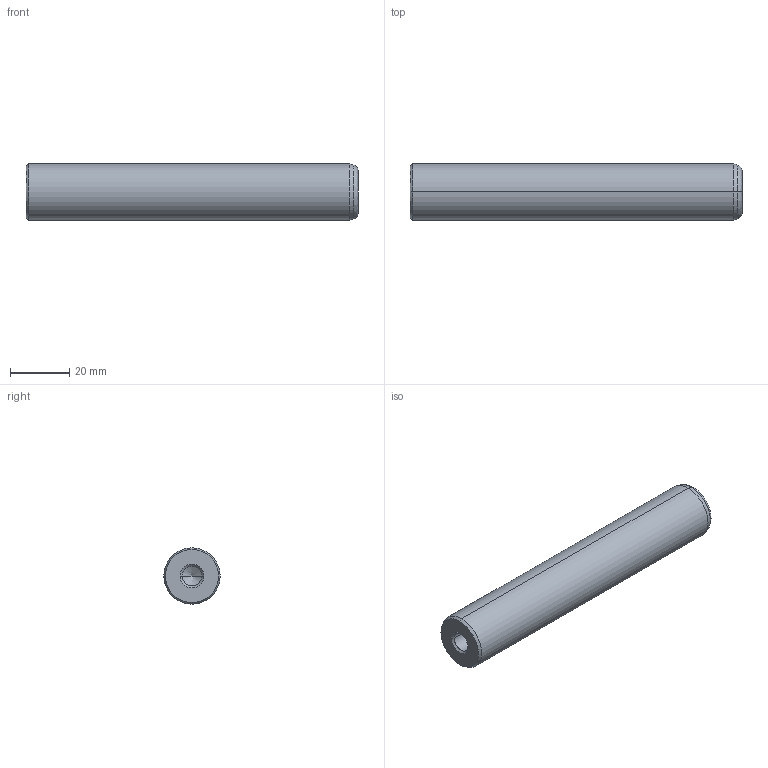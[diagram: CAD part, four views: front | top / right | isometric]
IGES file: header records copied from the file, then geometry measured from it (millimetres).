
Start section: START RECORD GO HERE.
Global section: file name: 720-19x112.igs; native system: DASSAULT SYSTEMES CATIA V5 R20 - www.3ds.com; preprocessor: CATIA Version 5 Release 20 ; author: Utente; organization: NB04-ASUS; date: 20210101.140921; units: millimetre
Bounding box: 112 x 19 x 19 mm (x, y, z)
Surface area: 8150.5 mm2 (no closed solid volume)
Topology: 0 solids, 0 shells, 22 faces, 120 edges, 116 vertices
Faces by surface type: revolution 20, plane 2
